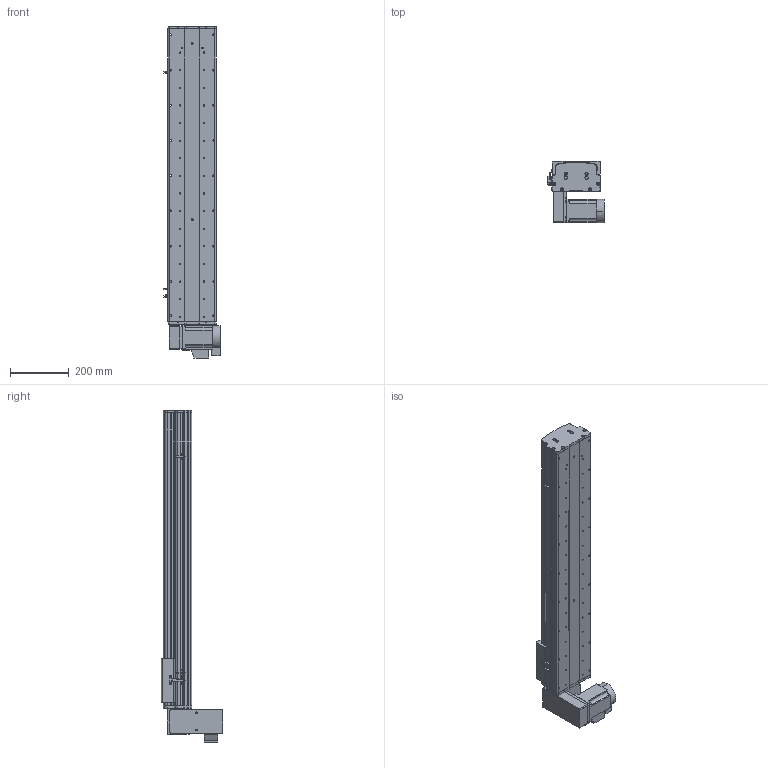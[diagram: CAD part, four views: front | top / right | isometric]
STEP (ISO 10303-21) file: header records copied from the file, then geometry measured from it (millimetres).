
FILE_DESCRIPTION (( 'STEP AP214' ), '1' );
FILE_NAME ('KSD165B-S750-MLD-CM.STEP', '2017-10-16T07:03:45', ( '微软用户' ), ( '微软中国' ), 'SwSTEP 2.0', 'SolidWorks 2014', '' );
FILE_SCHEMA (( 'AUTOMOTIVE_DESIGN' ));
Length unit declared in the file: millimetre
Products named in the file (17): HTPA26S5M250-A-H8 750W萇儂蚚; HTPA26S5M250-A-H8 400W萇儂蚚 ; 165宽马达安装板同步带左-改; KSD165模组-同步带防尘盖1-750行程-最新版; KSD165模组同步带底板-750行程-最新; 拸秶雄ん750W侜督萇儂; U倰嫖萇假蚾璃; U倰嫖萇EEㄜSX672; 覜茼え68遵圉猾敕; KSD165模组-同步带-防撞垫2; KSD165模组同步带-防撞垫1; KSD165耀郪-ヶ傷啣1-肮祭湍; KSD165模组-后端板1-同步带; KSD165模组-同步带滑动座-最新版; KSD165B-S750-MLD-CM; 130宽模组马达安装板连板上下折丝杆同步带; 130宽模组保护罩上下左右折-同步带
Assembly tree (20 placements, depth 2):
  KSD165B-S750-MLD-CM
    KSD165模组-同步带滑动座-最新版
    KSD165模组-后端板1-同步带
    KSD165耀郪-ヶ傷啣1-肮祭湍
    KSD165模组同步带-防撞垫1
    KSD165模组-同步带-防撞垫2
    覜茼え68遵圉猾敕
    U倰嫖萇EEㄜSX672  x3
    U倰嫖萇假蚾璃  x3
    拸秶雄ん750W侜督萇儂
    KSD165模组同步带底板-750行程-最新
    KSD165模组-同步带防尘盖1-750行程-最新版
    165宽马达安装板同步带左-改
    HTPA26S5M250-A-H8 400W萇儂蚚 
    HTPA26S5M250-A-H8 750W萇儂蚚
    130宽模组保护罩上下左右折-同步带
    130宽模组马达安装板连板上下折丝杆同步带
Bounding box: 191.2 x 210 x 1131 mm (x, y, z)
Volume: 6787233.1 mm3; surface area: 1576644.9 mm2
Topology: 21 solids, 22 shells, 1943 faces, 5478 edges, 3576 vertices
Faces by surface type: cylinder 1245, plane 586, cone 112
Entity records: 62864 total; most frequent: CARTESIAN_POINT 12882, DIRECTION 10350, ORIENTED_EDGE 9616, EDGE_CURVE 4808, AXIS2_PLACEMENT_3D 4058, VERTEX_POINT 3168, CIRCLE 2312, LINE 2234
